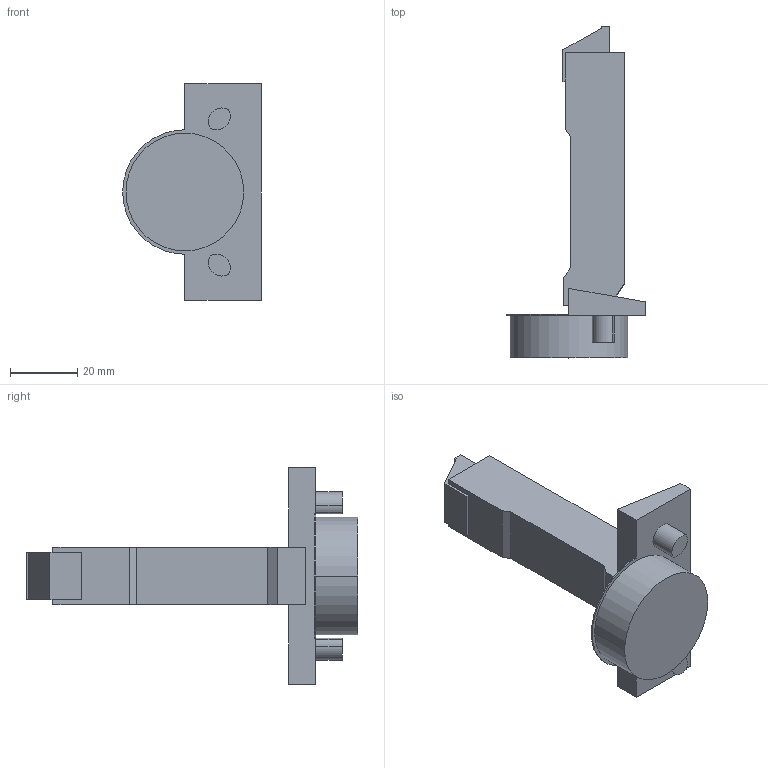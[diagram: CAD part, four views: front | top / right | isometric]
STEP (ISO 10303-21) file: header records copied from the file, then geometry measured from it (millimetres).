
FILE_DESCRIPTION (( 'STEP AP214' ), '1' );
FILE_NAME ('Scharnier T Impresso 110° GB_BB, K03.step', '2018-09-12T09:11:13', ( '' ), ( '' ), 'SwSTEP 2.0', 'SolidWorks 2017', '' );
FILE_SCHEMA (( 'AUTOMOTIVE_DESIGN' ));
Length unit declared in the file: millimetre
Products named in the file (1): Scharnier T Impresso 110° GB_BB, K03
Bounding box: 41.25 x 98.7 x 64.5 mm (x, y, z)
Volume: 42852.6 mm3; surface area: 12131.8 mm2
Topology: 1 solids, 1 shells, 50 faces, 126 edges, 84 vertices
Faces by surface type: plane 35, cylinder 15
Entity records: 1534 total; most frequent: CARTESIAN_POINT 261, DIRECTION 258, ORIENTED_EDGE 252, EDGE_CURVE 126, LINE 96, VECTOR 96, VERTEX_POINT 84, AXIS2_PLACEMENT_3D 81
